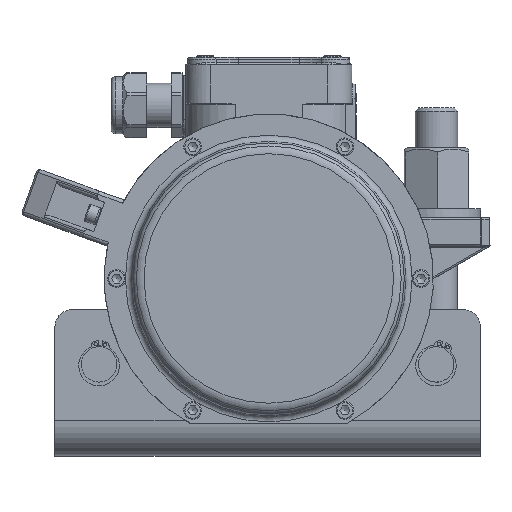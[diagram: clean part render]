
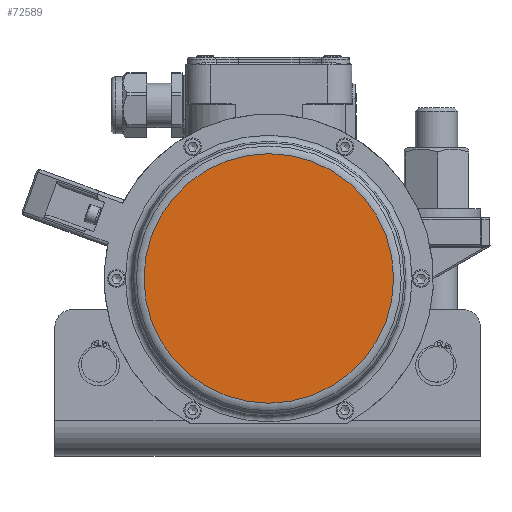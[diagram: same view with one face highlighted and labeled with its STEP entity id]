
A CAD part, top view. The second image highlights one B-rep face of the part: STEP entity #72589.
In plain terms, the highlighted planar face has unit normal (0, 0, 1).
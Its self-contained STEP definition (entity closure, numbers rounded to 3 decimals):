
#9993=FACE_OUTER_BOUND('',#14324,.T.);
#14324=EDGE_LOOP('',(#64691));
#28614=CIRCLE('',#76618,70.5);
#35183=VERTEX_POINT('',#142736);
#45140=EDGE_CURVE('',#35183,#35183,#28614,.T.);
#64691=ORIENTED_EDGE('',*,*,#45140,.F.);
#68894=PLANE('',#76617);
#72589=ADVANCED_FACE('',(#9993),#68894,.T.);
#76617=AXIS2_PLACEMENT_3D('',#142735,#90381,#90382);
#76618=AXIS2_PLACEMENT_3D('',#142737,#90383,#90384);
#90381=DIRECTION('center_axis',(0.,0.,
1.));
#90382=DIRECTION('ref_axis',(1.,0.,0.));
#90383=DIRECTION('center_axis',(0.,0.,
-1.));
#90384=DIRECTION('ref_axis',(0.,1.,0.));
#142735=CARTESIAN_POINT('Origin',(0.,47.667,
146.626));
#142736=CARTESIAN_POINT('',(70.5,12.417,146.626));
#142737=CARTESIAN_POINT('Origin',(0.,12.417,
146.626));
